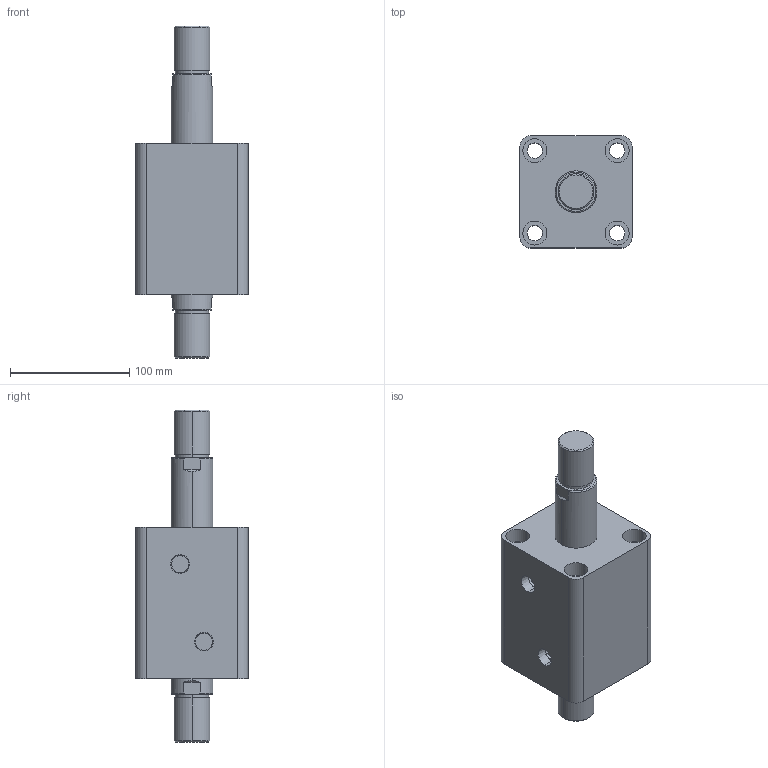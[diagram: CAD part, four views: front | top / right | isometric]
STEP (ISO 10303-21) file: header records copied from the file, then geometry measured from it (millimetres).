
FILE_DESCRIPTION (( 'STEP AP203' ), '1' );
FILE_NAME ('HTB-SW63-45W.STEP', '2019-10-07T10:05:14', ( '微软用户' ), ( '微软中国' ), 'SwSTEP 2.0', 'SolidWorks 2012', '' );
FILE_SCHEMA (( 'CONFIG_CONTROL_DESIGN' ));
Length unit declared in the file: millimetre
Products named in the file (3): HTB-SW63-45W; HTB-SW63-45W活塞杆; HTB-SW63-45掛极
Assembly tree (2 placements, depth 2):
  HTB-SW63-45W
    HTB-SW63-45掛极
    HTB-SW63-45W活塞杆
Bounding box: 94 x 94 x 278 mm (x, y, z)
Volume: 1049908.9 mm3; surface area: 145455.2 mm2
Topology: 2 solids, 2 shells, 108 faces, 240 edges, 156 vertices
Faces by surface type: cylinder 52, plane 36, torus 12, cone 8
Entity records: 3465 total; most frequent: CARTESIAN_POINT 645, DIRECTION 586, ORIENTED_EDGE 480, AXIS2_PLACEMENT_3D 249, EDGE_CURVE 240, VERTEX_POINT 156, EDGE_LOOP 138, CIRCLE 136
